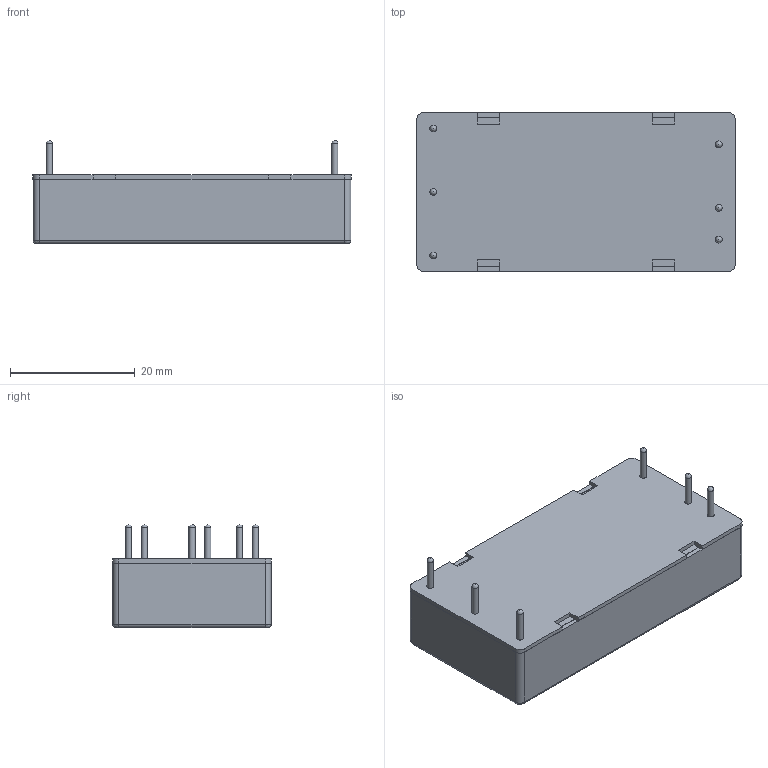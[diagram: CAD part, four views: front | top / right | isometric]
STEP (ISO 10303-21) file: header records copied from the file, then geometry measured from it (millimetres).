
FILE_DESCRIPTION(/* description */ (''),/* implementation_level */ '2;1');
FILE_NAME(/* name */ 'C:\Users\Calliope\Desktop\JWL50.stp',/* time_stamp */ '2017-11-10T15:18:22+08:00',/* author */ ('Calliope'),/* organization */ (''),/* preprocessor_version */ 'ST-DEVELOPER v15.6',/* originating_system */ 'Autodesk Inventor 2015',/* authorisation */ '');
FILE_SCHEMA (('AUTOMOTIVE_DESIGN { 1 0 10303 214 3 1 1 }'));
Length unit declared in the file: millimetre
Products named in the file (1): JWL50
Bounding box: 50.95 x 25.45 x 16.5 mm (x, y, z)
Volume: 3114.1 mm3; surface area: 8255 mm2
Topology: 1 solids, 1 shells, 106 faces, 280 edges, 170 vertices
Faces by surface type: plane 60, cylinder 32, sphere 10, bspline 4
Full cylindrical faces by diameter (mm): 1 x6, 1.1 x6
Entity records: 3124 total; most frequent: CARTESIAN_POINT 555, DIRECTION 526, ORIENTED_EDGE 504, EDGE_CURVE 252, LINE 184, VECTOR 184, AXIS2_PLACEMENT_3D 171, VERTEX_POINT 164
